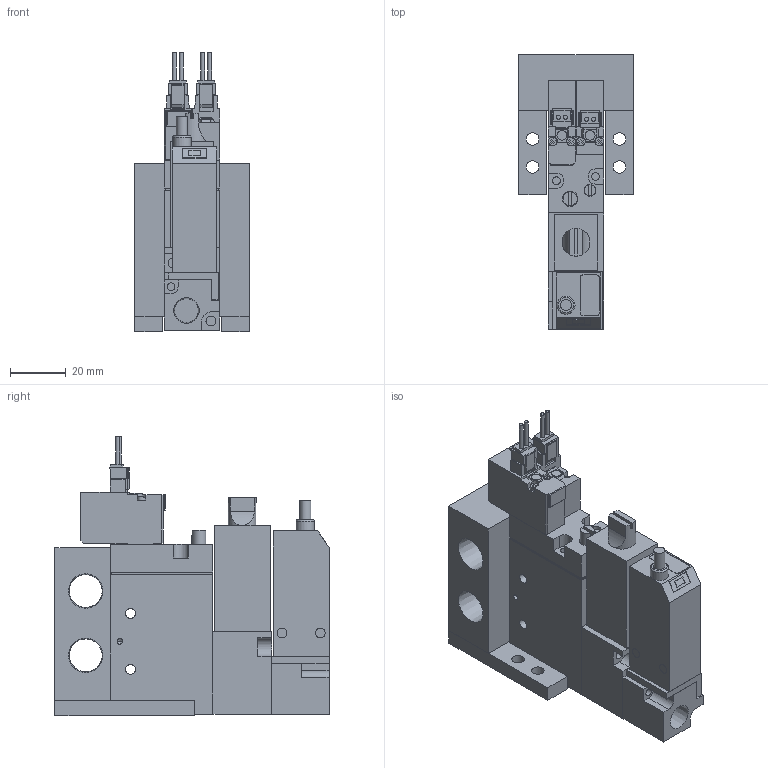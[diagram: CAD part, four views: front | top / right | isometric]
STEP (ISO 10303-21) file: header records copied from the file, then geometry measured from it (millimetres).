
FILE_DESCRIPTION(('STEP AP203'),'1');
FILE_NAME('BMPV32M2NAB25AL101.stp','2025-06-17T00:07:09',(' '),(' '),'Spatial InterOp 3D',' ',' ');
FILE_SCHEMA(('CONFIG_CONTROL_DESIGN'));
Length unit declared in the file: millimetre
Products named in the file (16): BMPV32M2NAB25AL101; UV280-4E; Filter Assy; __; _____; Pressure sensor ABSL; MB BRACKET; MB01; ___ ___2; ___-2(Rc); ___; upper plate-A; ______; ____; VACUUM VALVE FUNCTION MPV42-A
Assembly tree (15 placements, depth 2):
  BMPV32M2NAB25AL101
    UV280-4E
    Filter Assy
    __
    _____
    Pressure sensor ABSL
    MB BRACKET
    MB BRACKET
    MB01
    ___ ___2
    ___-2(Rc)
    ___
    upper plate-A
    ______
    ____
    VACUUM VALVE FUNCTION MPV42-A
Bounding box: 41 x 98 x 99.75 mm (x, y, z)
Volume: 138618.9 mm3; surface area: 48225.2 mm2
Topology: 15 solids, 15 shells, 435 faces, 1111 edges, 734 vertices
Faces by surface type: plane 335, cylinder 85, cone 14, torus 1
Full cylindrical faces by diameter (mm): 1.4 x4, 1.8 x2, 2 x2, 2.5 x6, 2.8 x4, 3 x4, 3.5 x16, 4 x2, 4.2 x1, 4.5 x4, 5 x1, 5.5 x1, 6.5 x7, 8.522 x1, 11.776 x2
Entity records: 13510 total; most frequent: CARTESIAN_POINT 2268, DIRECTION 2124, ORIENTED_EDGE 2038, EDGE_CURVE 1019, LINE 808, VECTOR 808, VERTEX_POINT 724, AXIS2_PLACEMENT_3D 658
